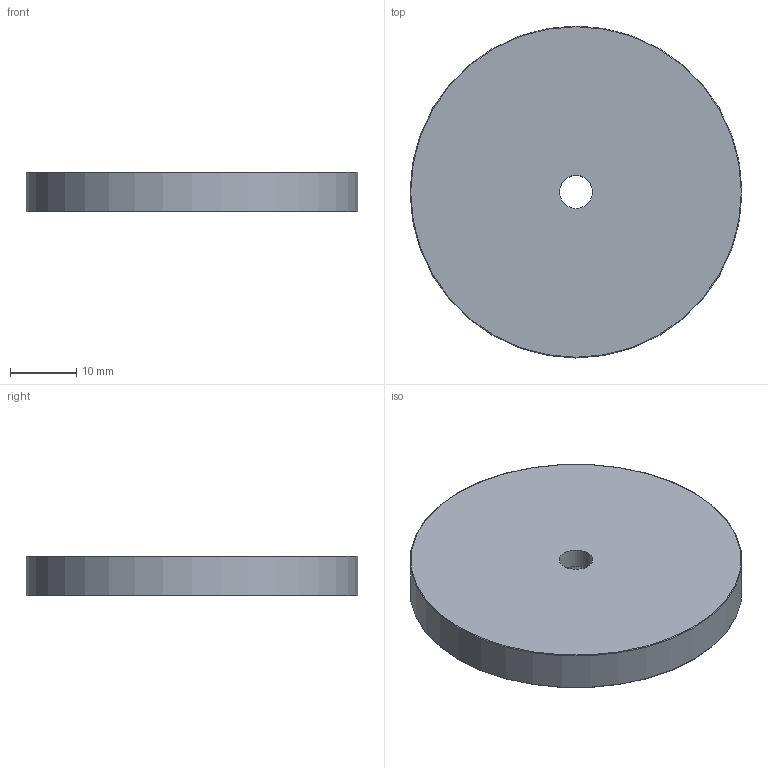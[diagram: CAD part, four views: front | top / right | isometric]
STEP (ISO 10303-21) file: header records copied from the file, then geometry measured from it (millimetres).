
FILE_DESCRIPTION(/* description */ (''),/* implementation_level */ '2;1');
FILE_NAME(/* name */ '3DCAD_TFM_05_1625_210.stp',/* time_stamp */ '2019-01-03T14:49:07+01:00',/* author */ ('CC2'),/* organization */ ('Leuze electronic'),/* preprocessor_version */ 'ST-DEVELOPER v16',/* originating_system */ 'SIEMENS PLM Software NX 11.0',/* authorisation */ '');
FILE_SCHEMA (('AUTOMOTIVE_DESIGN { 1 0 10303 214 3 1 1 1 }'));
Length unit declared in the file: millimetre
Products named in the file (1): 19-102836_00_1-3DCAD_TFM_05_1625_210
Bounding box: 50 x 50 x 6 mm (x, y, z)
Volume: 11563.5 mm3; surface area: 4895.1 mm2
Topology: 1 solids, 1 shells, 7 faces, 13 edges, 8 vertices
Faces by surface type: cylinder 2, plane 2, torus 2, cone 1
Full cylindrical faces by diameter (mm): 5 x1, 50 x1
Entity records: 172 total; most frequent: DIRECTION 30, CARTESIAN_POINT 22, AXIS2_PLACEMENT_3D 15, FACE_BOUND 14, EDGE_LOOP 14, ORIENTED_EDGE 14, ADVANCED_FACE 7, VERTEX_POINT 7
